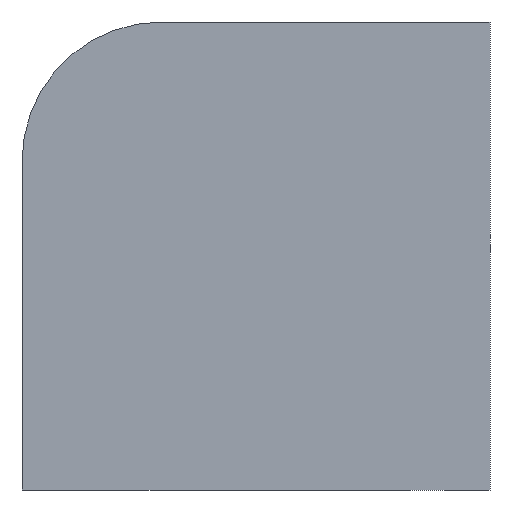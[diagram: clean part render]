
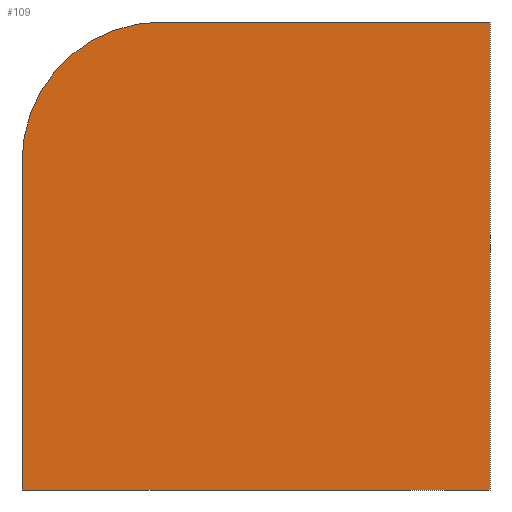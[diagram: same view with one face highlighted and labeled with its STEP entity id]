
A CAD part, left-side view. The second image highlights one B-rep face of the part: STEP entity #109.
In plain terms, the highlighted planar face has unit normal (-1, 0, 0).
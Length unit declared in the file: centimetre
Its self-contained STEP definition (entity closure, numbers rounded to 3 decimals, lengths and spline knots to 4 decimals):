
#3 = VECTOR ( 'NONE', #831, 100. ) ;
#18 = CARTESIAN_POINT ( 'NONE',  ( 0., 1000., 1000. ) ) ;
#19 = LINE ( 'NONE', #27, #1052 ) ;
#27 = CARTESIAN_POINT ( 'NONE',  ( 0., 1000., 0. ) ) ;
#70 = ORIENTED_EDGE ( 'NONE', *, *, #386, .T. ) ;
#84 = AXIS2_PLACEMENT_3D ( 'NONE', #275, #86, #99 ) ;
#86 = DIRECTION ( 'NONE',  ( 1., 0., 0. ) ) ;
#88 = DIRECTION ( 'NONE',  ( 0., -1., 0. ) ) ;
#99 = DIRECTION ( 'NONE',  ( 0., 0., -1. ) ) ;
#101 = VECTOR ( 'NONE', #509, 100. ) ;
#109 = ADVANCED_FACE ( 'NONE', ( #1058 ), #380, .F. ) ;
#170 = DIRECTION ( 'NONE',  ( 0., 0., -1. ) ) ;
#171 = VERTEX_POINT ( 'NONE', #657 ) ;
#254 = EDGE_LOOP ( 'NONE', ( #313, #70, #612, #325, #713 ) ) ;
#275 = CARTESIAN_POINT ( 'NONE',  ( 0., 1000., 1000. ) ) ;
#283 = VERTEX_POINT ( 'NONE', #1140 ) ;
#313 = ORIENTED_EDGE ( 'NONE', *, *, #1038, .F. ) ;
#325 = ORIENTED_EDGE ( 'NONE', *, *, #453, .T. ) ;
#367 = EDGE_CURVE ( 'NONE', #1020, #959, #529, .T. ) ;
#380 = PLANE ( 'NONE',  #84 ) ;
#386 = EDGE_CURVE ( 'NONE', #756, #1020, #740, .T. ) ;
#453 = EDGE_CURVE ( 'NONE', #959, #283, #19, .T. ) ;
#477 = LINE ( 'NONE', #18, #3 ) ;
#509 = DIRECTION ( 'NONE',  ( 0., 0., -1. ) ) ;
#529 = LINE ( 'NONE', #611, #101 ) ;
#548 = DIRECTION ( 'NONE',  ( 0., 0., -1. ) ) ;
#611 = CARTESIAN_POINT ( 'NONE',  ( 0., 1000., 1000. ) ) ;
#612 = ORIENTED_EDGE ( 'NONE', *, *, #367, .T. ) ;
#625 = CARTESIAN_POINT ( 'NONE',  ( 0., 701.8755, 1000. ) ) ;
#657 = CARTESIAN_POINT ( 'NONE',  ( 0., 0., 1000. ) ) ;
#713 = ORIENTED_EDGE ( 'NONE', *, *, #817, .F. ) ;
#730 = CARTESIAN_POINT ( 'NONE',  ( 0., 0., 1000. ) ) ;
#740 = CIRCLE ( 'NONE', #1073, 298.1245 ) ;
#756 = VERTEX_POINT ( 'NONE', #625 ) ;
#817 = EDGE_CURVE ( 'NONE', #171, #283, #979, .T. ) ;
#831 = DIRECTION ( 'NONE',  ( 0., -1., 0. ) ) ;
#866 = CARTESIAN_POINT ( 'NONE',  ( 0., 701.8755, 701.8755 ) ) ;
#924 = CARTESIAN_POINT ( 'NONE',  ( 0., 1000., 701.8755 ) ) ;
#959 = VERTEX_POINT ( 'NONE', #1032 ) ;
#979 = LINE ( 'NONE', #730, #1154 ) ;
#990 = DIRECTION ( 'NONE',  ( -1., 0., 0. ) ) ;
#1020 = VERTEX_POINT ( 'NONE', #924 ) ;
#1032 = CARTESIAN_POINT ( 'NONE',  ( 0., 1000., 0. ) ) ;
#1038 = EDGE_CURVE ( 'NONE', #756, #171, #477, .T. ) ;
#1052 = VECTOR ( 'NONE', #88, 100. ) ;
#1058 = FACE_OUTER_BOUND ( 'NONE', #254, .T. ) ;
#1073 = AXIS2_PLACEMENT_3D ( 'NONE', #866, #990, #170 ) ;
#1140 = CARTESIAN_POINT ( 'NONE',  ( 0., 0., 0. ) ) ;
#1154 = VECTOR ( 'NONE', #548, 100. ) ;
